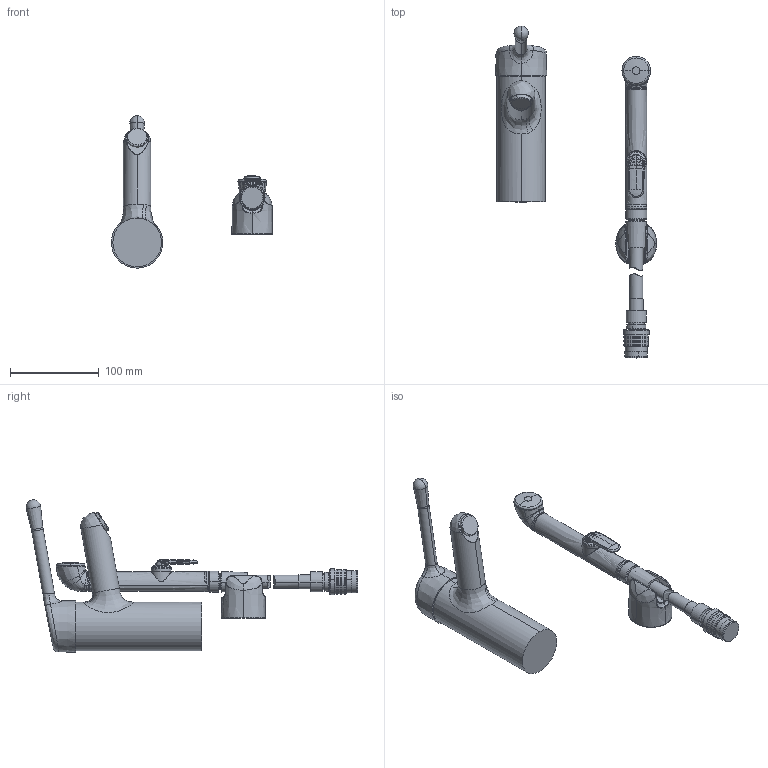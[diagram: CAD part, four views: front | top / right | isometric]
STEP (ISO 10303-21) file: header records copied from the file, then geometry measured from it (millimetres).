
FILE_DESCRIPTION (( 'STEP AP203' ), '1' );
FILE_NAME ('5512AF(2018)+01662296.STEP', '2018-07-20T06:38:12', ( '' ), ( '' ), 'SwSTEP 2.0', 'SolidWorks 2016', '' );
FILE_SCHEMA (( 'CONFIG_CONTROL_DESIGN' ));
Length unit declared in the file: millimetre
Products named in the file (1): 5512AF(2018)+01662296
Bounding box: 182.1 x 374.88 x 172.09 mm (x, y, z)
Volume: 714018.1 mm3; surface area: 116881.2 mm2
Topology: 13 solids, 13 shells, 574 faces, 1683 edges, 1143 vertices
Faces by surface type: bspline 250, cylinder 130, plane 78, torus 63, cone 45, sphere 8
Entity records: 48596 total; most frequent: CARTESIAN_POINT 35995, ORIENTED_EDGE 3338, DIRECTION 1688, EDGE_CURVE 1669, VERTEX_POINT 1138, B_SPLINE_CURVE_WITH_KNOTS 882, AXIS2_PLACEMENT_3D 730, EDGE_LOOP 599
